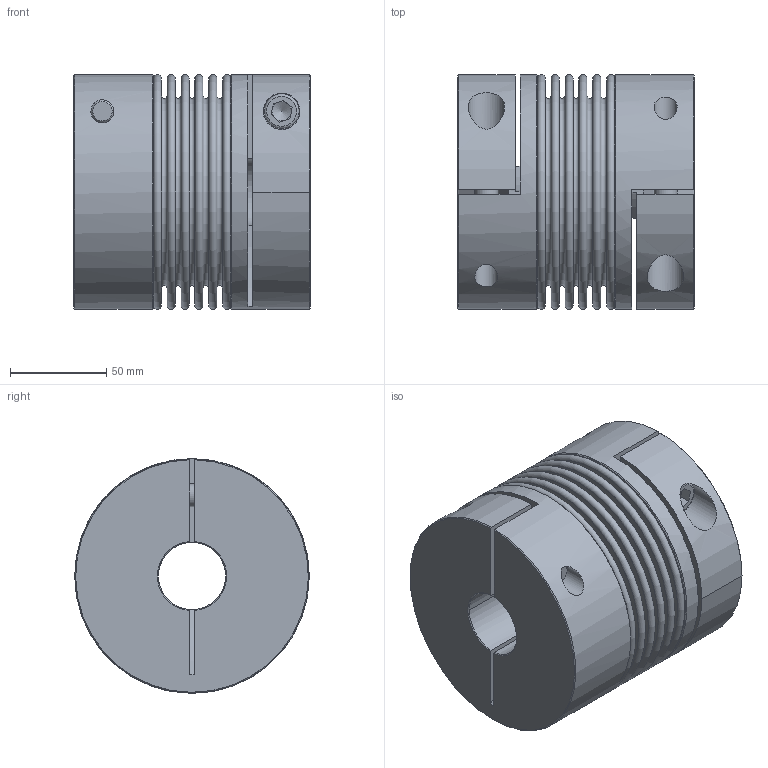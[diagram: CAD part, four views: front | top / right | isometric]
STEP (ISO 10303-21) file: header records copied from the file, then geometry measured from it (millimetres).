
FILE_DESCRIPTION( ( 'Unknown' ), '1' );
FILE_NAME( 'K:/Konstruktion/Homepage/KB4AL/KB4AL-500-123.stp', 'Unknown', ( 'Unknown' ), ( 'Unknown' ), 'PSStep 16.0.42', 'Unknown', ' ' );
FILE_SCHEMA( ( 'AUTOMOTIVE_DESIGN { 1 0 10303 214 1 1 1 1 }' ) );
Length unit declared in the file: millimetre
Products named in the file (4): Assem1; KN500_Standard_4; BL500_Standard_2; Socket Head Cap Screw_DIN_DIN 912 M12 x 55 --- 55N_4
Assembly tree (5 placements, depth 2):
  Assem1
    KN500_Standard_4  x2
    BL500_Standard_2
    Socket Head Cap Screw_DIN_DIN 912 M12 x 55 --- 55N_4  x2
Bounding box: 123.2 x 122 x 122 mm (x, y, z)
Volume: 879479.3 mm3; surface area: 244685.9 mm2
Topology: 5 solids, 5 shells, 138 faces, 290 edges, 188 vertices
Faces by surface type: plane 74, cylinder 26, torus 26, cone 12
Full cylindrical faces by diameter (mm): 12 x4, 12.5 x2, 18 x2, 19 x2, 35 x2, 107.7 x2, 108.9 x2, 122 x2
Entity records: 3211 total; most frequent: CARTESIAN_POINT 557, DIRECTION 409, ORIENTED_EDGE 268, AXIS2_PLACEMENT_3D 185, EDGE_LOOP 164, EDGE_CURVE 134, FACE_OUTER_BOUND 128, VERTEX_POINT 123
